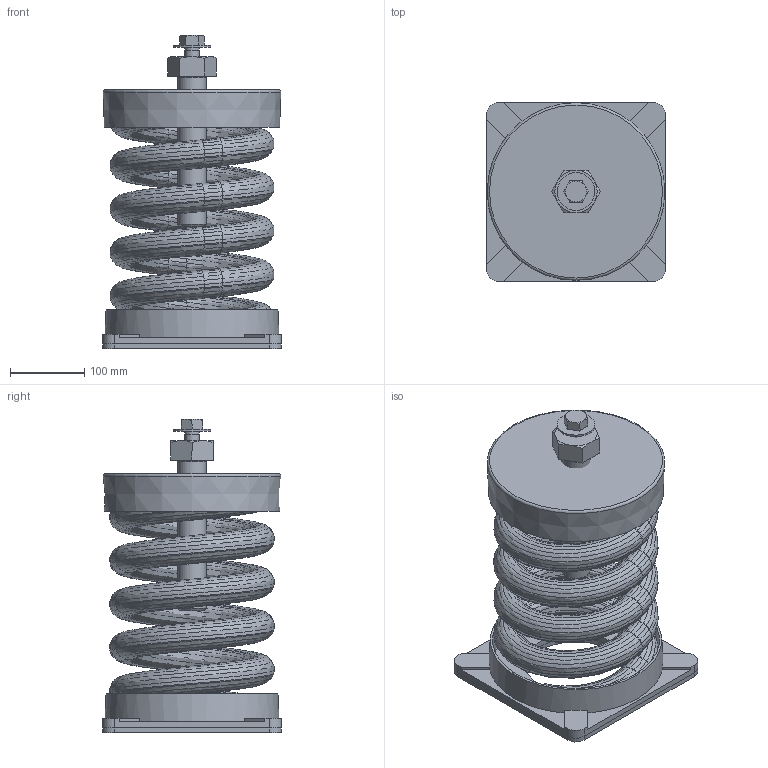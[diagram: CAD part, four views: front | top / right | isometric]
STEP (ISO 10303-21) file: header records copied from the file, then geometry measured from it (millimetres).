
FILE_DESCRIPTION(/* description */ (''),/* implementation_level */ '2;1');
FILE_NAME(/* name */ 'C:\001_Work\Designs\SLF ASSEMBLIES\SLF-140.stp',/* time_stamp */ '2016-01-11T10:19:16-05:00',/* author */ ('rramoutar'),/* organization */ ('Mason Industries Inc.'),/* preprocessor_version */ 'ST-DEVELOPER v15.6',/* originating_system */ 'Autodesk Inventor 2015',/* authorisation */ '');
FILE_SCHEMA (('CONFIG_CONTROL_DESIGN'));
Products named in the file (1): SLF-140
Bounding box: 241.3 x 241.3 x 422.25 mm (x, y, z)
Volume: 2153404.9 mm3; surface area: 1184901.7 mm2
Topology: 7 solids, 7 shells, 701 faces, 1492 edges, 812 vertices
Faces by surface type: bspline 497, plane 141, cylinder 30, cone 30, torus 3
Full cylindrical faces by diameter (mm): 15.875 x8, 16.307 x1, 19.05 x1, 20.625 x1, 28.575 x1, 34.131 x1, 38.1 x1, 50.8 x1, 57.15 x1, 139.7 x2, 225.425 x1, 227.012 x1
Entity records: 38324 total; most frequent: CARTESIAN_POINT 26568, ORIENTED_EDGE 2914, EDGE_CURVE 1457, B_SPLINE_CURVE_WITH_KNOTS 1006, DIRECTION 914, VERTEX_POINT 806, EDGE_LOOP 755, STYLED_ITEM 708
